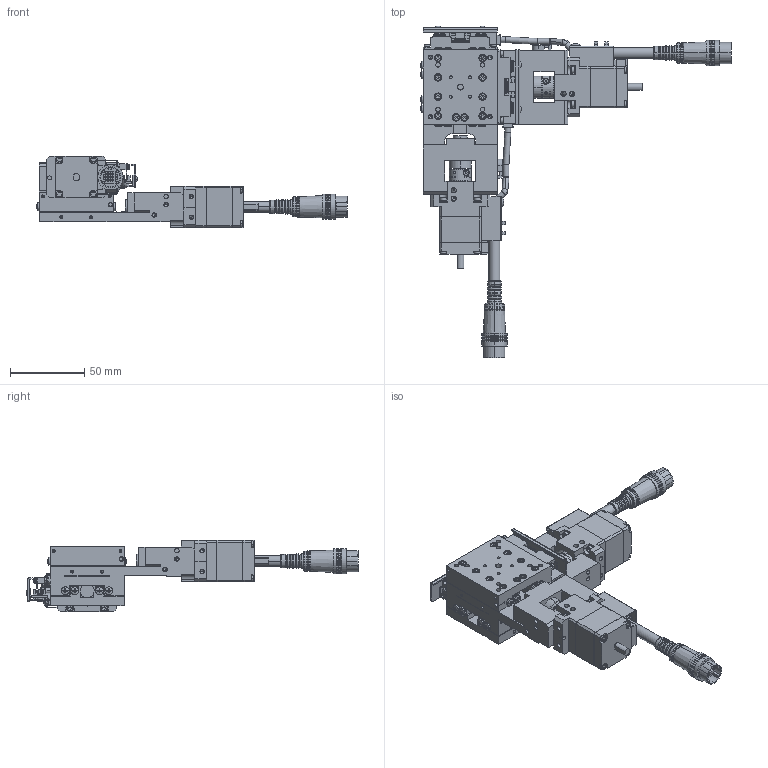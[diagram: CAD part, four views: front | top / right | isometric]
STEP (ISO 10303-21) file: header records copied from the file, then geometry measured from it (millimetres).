
FILE_DESCRIPTION (( 'STEP AP203' ), '1' );
FILE_NAME ('YA05A-R202.STEP', '2019-02-26T08:45:52', ( '' ), ( '' ), 'SwSTEP 2.0', 'SolidWorks 2018', '' );
FILE_SCHEMA (( 'CONFIG_CONTROL_DESIGN' ));
Length unit declared in the file: millimetre
Products named in the file (10): base-Part-1; second table-Part-1; second table-Part-3; base-Part-2; base; table; YA05A-R202; second table-Part-2; base-Part-3; second table
Assembly tree (9 placements, depth 3):
  YA05A-R202
    second table
      second table-Part-1
      second table-Part-2
      second table-Part-3
    base
      base-Part-1
      base-Part-2
      base-Part-3
    table
Bounding box: 209.09 x 223.68 x 48 mm (x, y, z)
Volume: 243920.7 mm3; surface area: 109309.3 mm2
Topology: 7 solids, 7 shells, 4405 faces, 10888 edges, 6634 vertices
Faces by surface type: plane 2611, cylinder 1010, cone 504, torus 212, sphere 68
Entity records: 130914 total; most frequent: CARTESIAN_POINT 23615, DIRECTION 23238, ORIENTED_EDGE 21400, EDGE_CURVE 10700, AXIS2_PLACEMENT_3D 8337, VERTEX_POINT 6622, VECTOR 6564, LINE 6564
